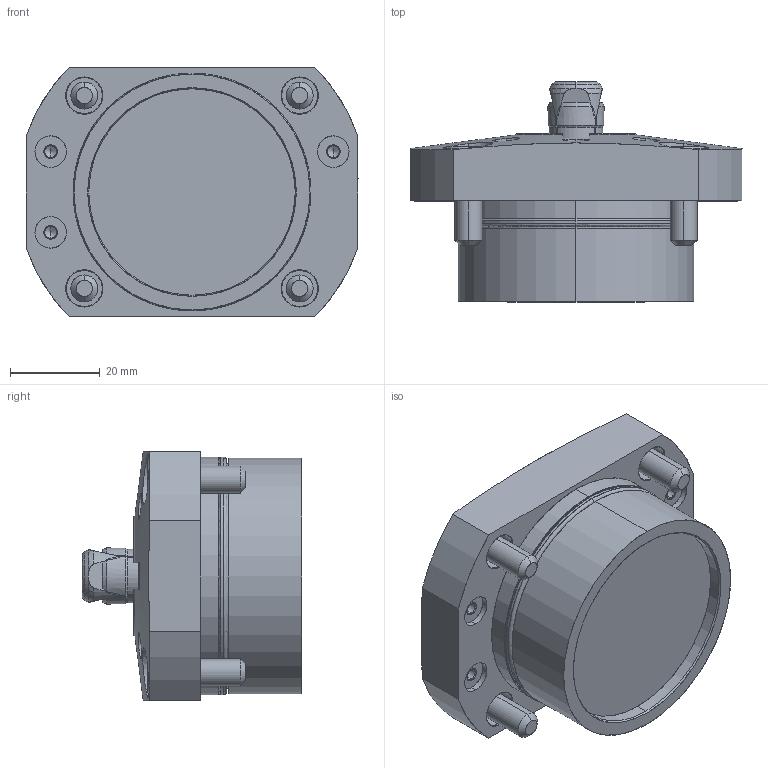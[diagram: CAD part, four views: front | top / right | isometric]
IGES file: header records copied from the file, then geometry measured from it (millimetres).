
Start section: SolidWorks IGES file using analytic representation for surfaces
Global section: file name: L:\電子カタログ-3Ｄ\SFH\ｱｾﾝﾌﾞﾘ\SFH3130_N.IGS; native system: SolidWorks 2010; preprocessor: SolidWorks 2010; author: D214; date: 101104.082228; units: millimetre
Bounding box: 74 x 49 x 55.5 mm (x, y, z)
Surface area: 29407.9 mm2 (no closed solid volume)
Topology: 0 solids, 0 shells, 552 faces, 7155 edges, 7127 vertices
Faces by surface type: revolution 314, bspline 238
